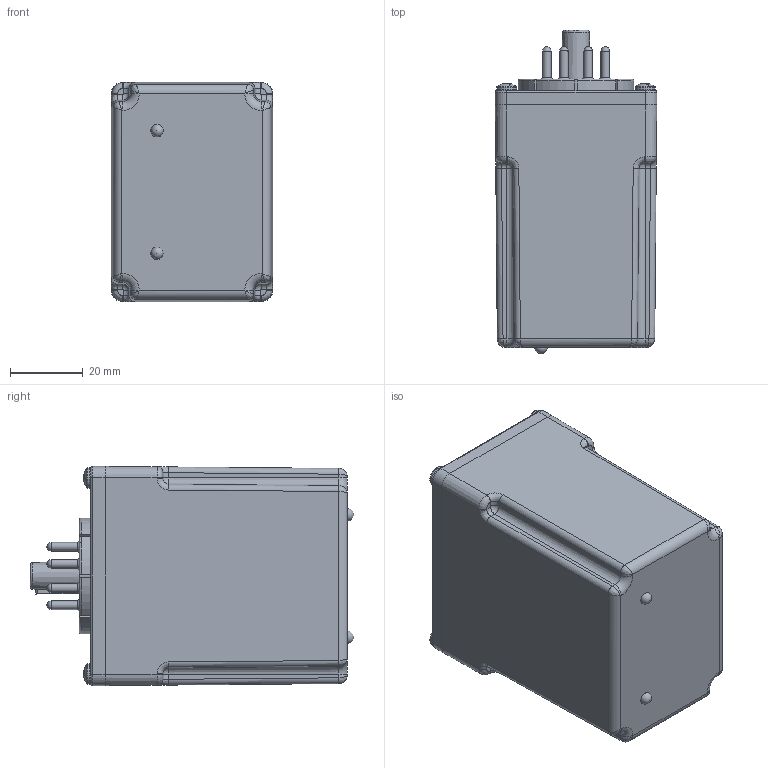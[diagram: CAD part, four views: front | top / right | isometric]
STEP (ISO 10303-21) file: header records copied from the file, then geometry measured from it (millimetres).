
FILE_DESCRIPTION(('FreeCAD Model'),'2;1');
FILE_NAME('Open CASCADE Shape Model','2023-06-06T11:52:02',(''),(''), 'Open CASCADE STEP processor 7.6','FreeCAD','Unknown');
FILE_SCHEMA(('AUTOMOTIVE_DESIGN { 1 0 10303 214 1 1 1 1 }'));
Products named in the file (1): Compound
Bounding box: 44.45 x 88.95 x 60.33 mm (x, y, z)
Surface area: 43534.3 mm2 (no closed solid volume)
Topology: 0 solids, 20 shells, 1849 faces, 4735 edges, 2935 vertices
Faces by surface type: plane 691, cylinder 682, bspline 200, torus 121, sphere 58, cone 57, revolution 40
Full cylindrical faces by diameter (mm): 0.254 x16, 1.257 x8, 1.714 x8, 1.905 x16, 2.362 x16, 2.464 x8, 3.175 x4, 4.191 x8, 7.925 x1
Entity records: 174103 total; most frequent: CARTESIAN_POINT 85102, DIRECTION 15208, ORIENTED_EDGE 9322, PCURVE 9322, DEFINITIONAL_REPRESENTATION 9322, LINE 9050, VECTOR 9050, EDGE_CURVE 4669
